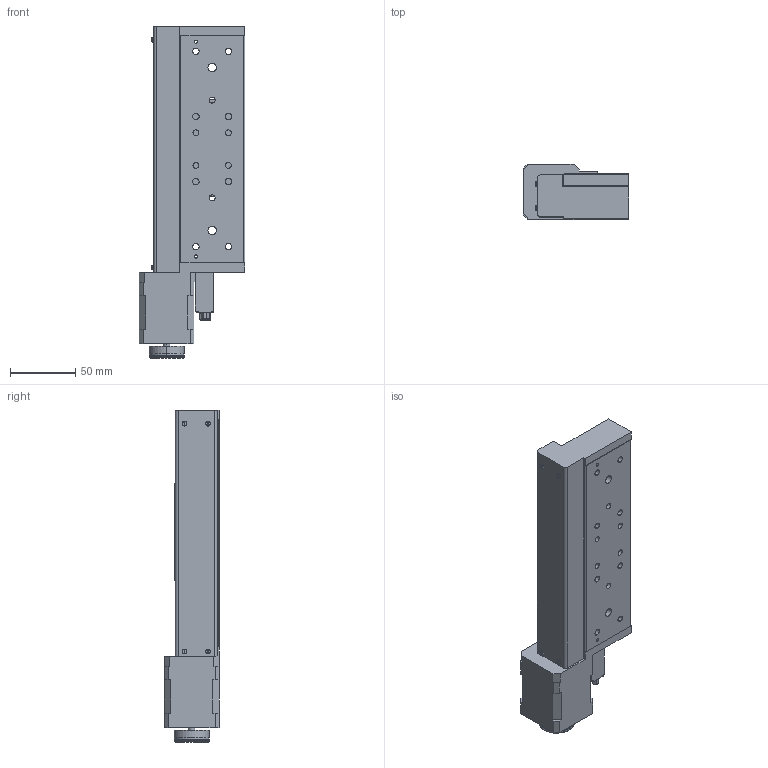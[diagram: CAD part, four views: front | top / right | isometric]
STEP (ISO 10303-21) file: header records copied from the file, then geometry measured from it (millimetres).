
FILE_DESCRIPTION (( 'STEP AP203' ), '1' );
FILE_NAME ('8MT50-100.STEP', '2010-08-17T05:51:03', ( 'Darius' ), ( '' ), 'SwSTEP 2.0', 'SolidWorks 2003240', '' );
FILE_SCHEMA (( 'CONFIG_CONTROL_DESIGN' ));
Products named in the file (1): 8MT50-100
Bounding box: 81 x 42.5 x 255 mm (x, y, z)
Volume: 462353.3 mm3; surface area: 80189.7 mm2
Topology: 1 solids, 31 shells, 2072 faces, 5402 edges, 3454 vertices
Faces by surface type: plane 882, cylinder 783, bspline 226, cone 181
Entity records: 69508 total; most frequent: CARTESIAN_POINT 20123, ORIENTED_EDGE 10662, DIRECTION 9853, EDGE_CURVE 5331, AXIS2_PLACEMENT_3D 3691, VERTEX_POINT 3454, VECTOR 2471, LINE 2471
